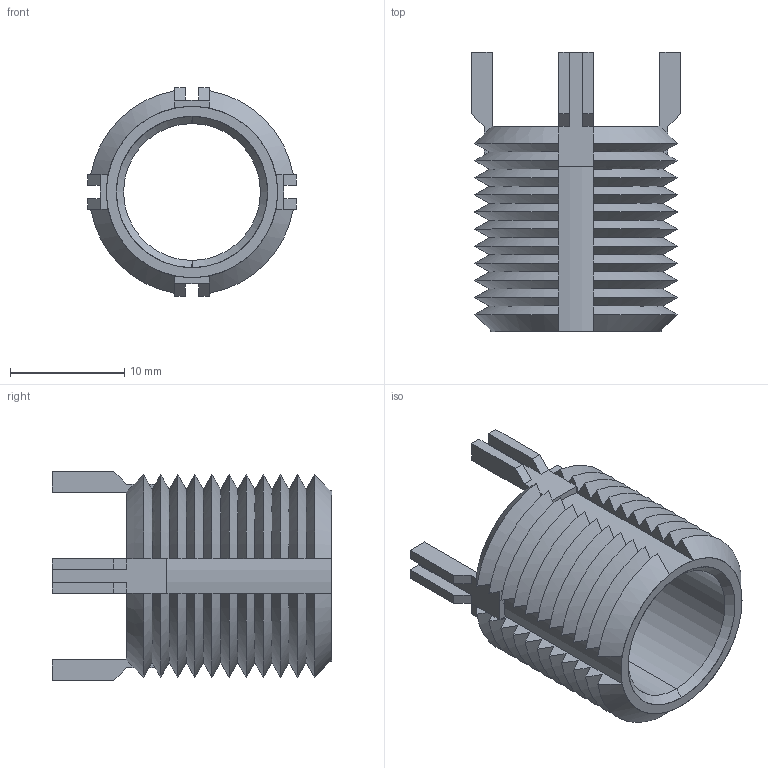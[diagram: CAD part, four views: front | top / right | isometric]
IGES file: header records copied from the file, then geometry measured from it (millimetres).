
Start section: SolidWorks IGES file using analytic representation for surfaces
Global section: file name: C:\Users\IanO\Desktop\PDF data sheets and models from M drive\Holding folder\TR1515_v2_20230317_IGES\22002.W5691.igs; native system: SolidWorks 2019; preprocessor: SolidWorks 2019; author: IanO; date: 230320.192900; units: millimetre
Bounding box: 18.3 x 24.5 x 18.3 mm (x, y, z)
Surface area: 2808.6 mm2 (no closed solid volume)
Topology: 0 solids, 0 shells, 188 faces, 1120 edges, 1120 vertices
Faces by surface type: revolution 98, bspline 90
